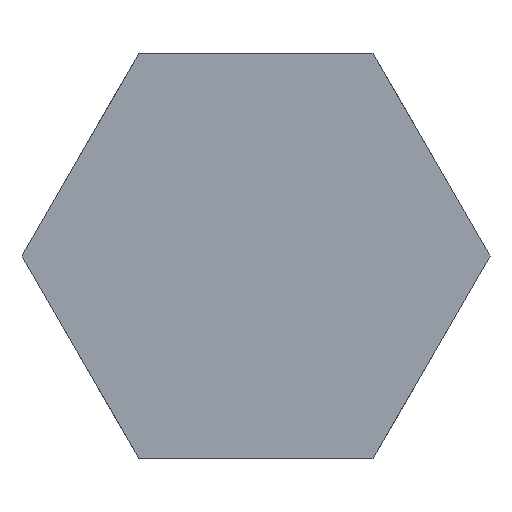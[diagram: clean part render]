
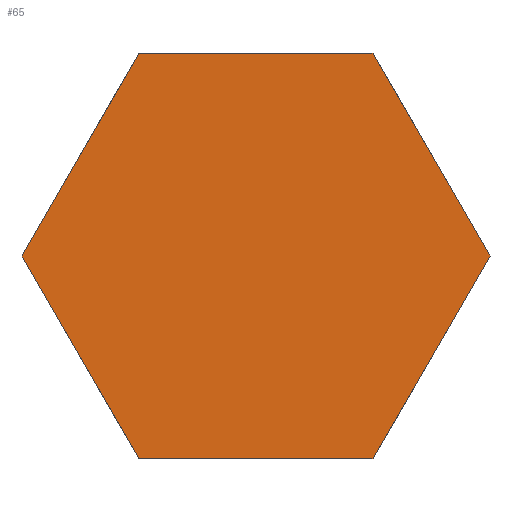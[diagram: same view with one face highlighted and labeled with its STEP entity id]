
A CAD part, front view. The second image highlights one B-rep face of the part: STEP entity #65.
In plain terms, the highlighted planar face has unit normal (0, -1, 0) as drawn and (0, 1, 0) by its records, which use the part's own axes.
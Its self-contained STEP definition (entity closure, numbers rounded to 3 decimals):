
#65 = ADVANCED_FACE ( 'NONE', ( #1256 ), #776, .T. ) ;
#90 = EDGE_CURVE ( 'NONE', #804, #1228, #245, .T. ) ;
#91 = EDGE_CURVE ( 'NONE', #1228, #805, #246, .T. ) ;
#94 = EDGE_CURVE ( 'NONE', #805, #1237, #251, .T. ) ;
#245 = LINE ( 'NONE', #252, #681 ) ;
#246 = LINE ( 'NONE', #254, #1046 ) ;
#251 = LINE ( 'NONE', #262, #1044 ) ;
#252 = CARTESIAN_POINT ( 'NONE',  ( -3.753, 5.3, -6.5 ) ) ;
#253 = DIRECTION ( 'NONE',  ( -0.5, 0., 0.866 ) ) ;
#254 = CARTESIAN_POINT ( 'NONE',  ( -7.506, 5.3, 0. ) ) ;
#255 = DIRECTION ( 'NONE',  ( 0.5, 0., 0.866 ) ) ;
#262 = CARTESIAN_POINT ( 'NONE',  ( -3.753, 5.3, 6.5 ) ) ;
#263 = DIRECTION ( 'NONE',  ( 1., 0., 0. ) ) ;
#364 = EDGE_CURVE ( 'NONE', #1237, #786, #440, .T. ) ;
#383 = VECTOR ( 'NONE', #892, 1000. ) ;
#399 = VECTOR ( 'NONE', #889, 1000. ) ;
#440 = LINE ( 'NONE', #451, #813 ) ;
#451 = CARTESIAN_POINT ( 'NONE',  ( 3.753, 5.3, 6.5 ) ) ;
#452 = DIRECTION ( 'NONE',  ( 0.5, 0., -0.866 ) ) ;
#502 = EDGE_CURVE ( 'NONE', #786, #795, #881, .T. ) ;
#503 = EDGE_CURVE ( 'NONE', #795, #804, #890, .T. ) ;
#520 = ORIENTED_EDGE ( 'NONE', *, *, #91, .T. ) ;
#531 = ORIENTED_EDGE ( 'NONE', *, *, #503, .T. ) ;
#563 = ORIENTED_EDGE ( 'NONE', *, *, #94, .T. ) ;
#599 = ORIENTED_EDGE ( 'NONE', *, *, #90, .T. ) ;
#681 = VECTOR ( 'NONE', #253, 1000. ) ;
#717 = AXIS2_PLACEMENT_3D ( 'NONE', #1257, #1258, #1259 ) ;
#737 = ORIENTED_EDGE ( 'NONE', *, *, #364, .T. ) ;
#738 = ORIENTED_EDGE ( 'NONE', *, *, #502, .T. ) ;
#761 = EDGE_LOOP ( 'NONE', ( #599, #520, #563, #737, #738, #531 ) ) ;
#776 = PLANE ( 'NONE',  #717 ) ;
#786 = VERTEX_POINT ( 'NONE', #907 ) ;
#795 = VERTEX_POINT ( 'NONE', #929 ) ;
#804 = VERTEX_POINT ( 'NONE', #938 ) ;
#805 = VERTEX_POINT ( 'NONE', #939 ) ;
#813 = VECTOR ( 'NONE', #452, 1000. ) ;
#881 = LINE ( 'NONE', #882, #399 ) ;
#882 = CARTESIAN_POINT ( 'NONE',  ( 7.506, 5.3, 0. ) ) ;
#889 = DIRECTION ( 'NONE',  ( -0.5, 0., -0.866 ) ) ;
#890 = LINE ( 'NONE', #891, #383 ) ;
#891 = CARTESIAN_POINT ( 'NONE',  ( 3.753, 5.3, -6.5 ) ) ;
#892 = DIRECTION ( 'NONE',  ( -1., 0., 0. ) ) ;
#907 = CARTESIAN_POINT ( 'NONE',  ( 7.506, 5.3, 0. ) ) ;
#929 = CARTESIAN_POINT ( 'NONE',  ( 3.753, 5.3, -6.5 ) ) ;
#938 = CARTESIAN_POINT ( 'NONE',  ( -3.753, 5.3, -6.5 ) ) ;
#939 = CARTESIAN_POINT ( 'NONE',  ( -3.753, 5.3, 6.5 ) ) ;
#942 = CARTESIAN_POINT ( 'NONE',  ( -7.506, 5.3, 0. ) ) ;
#944 = CARTESIAN_POINT ( 'NONE',  ( 3.753, 5.3, 6.5 ) ) ;
#1044 = VECTOR ( 'NONE', #263, 1000. ) ;
#1046 = VECTOR ( 'NONE', #255, 1000. ) ;
#1228 = VERTEX_POINT ( 'NONE', #942 ) ;
#1237 = VERTEX_POINT ( 'NONE', #944 ) ;
#1256 = FACE_OUTER_BOUND ( 'NONE', #761, .T. ) ;
#1257 = CARTESIAN_POINT ( 'NONE',  ( -7.506, 5.3, 0. ) ) ;
#1258 = DIRECTION ( 'NONE',  ( 0., 1., 0. ) ) ;
#1259 = DIRECTION ( 'NONE',  ( 0., 0., 1. ) ) ;
